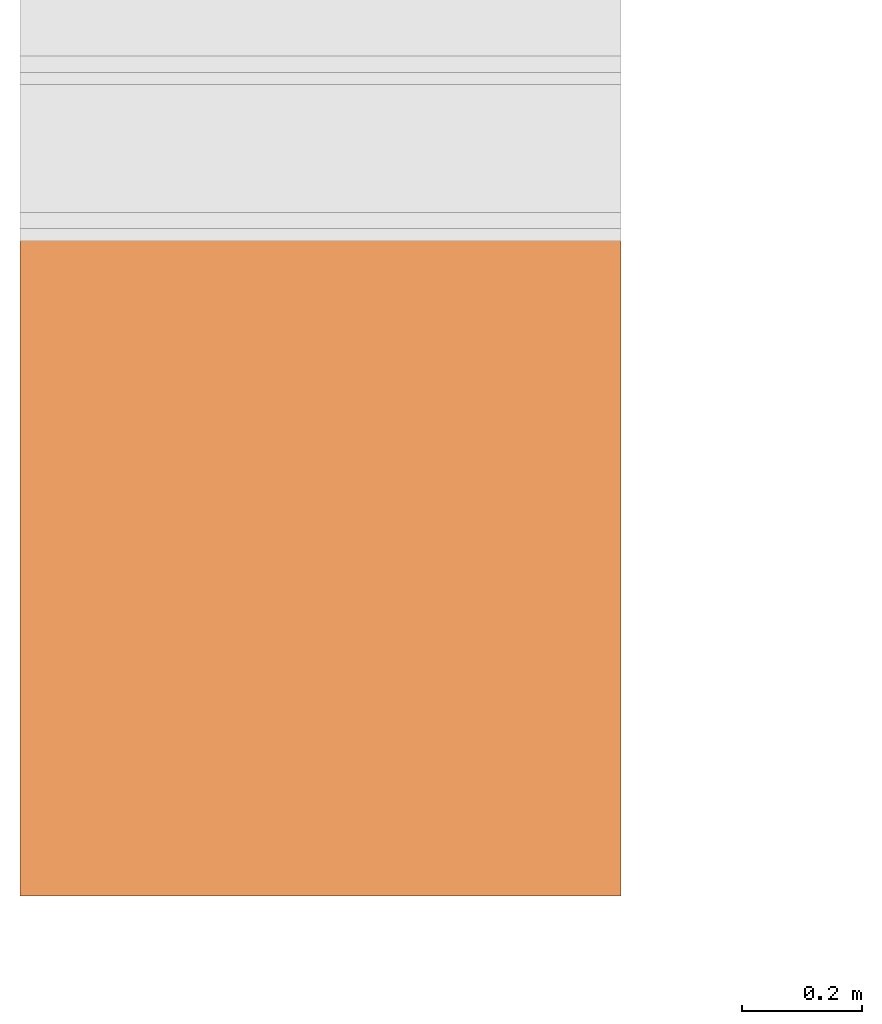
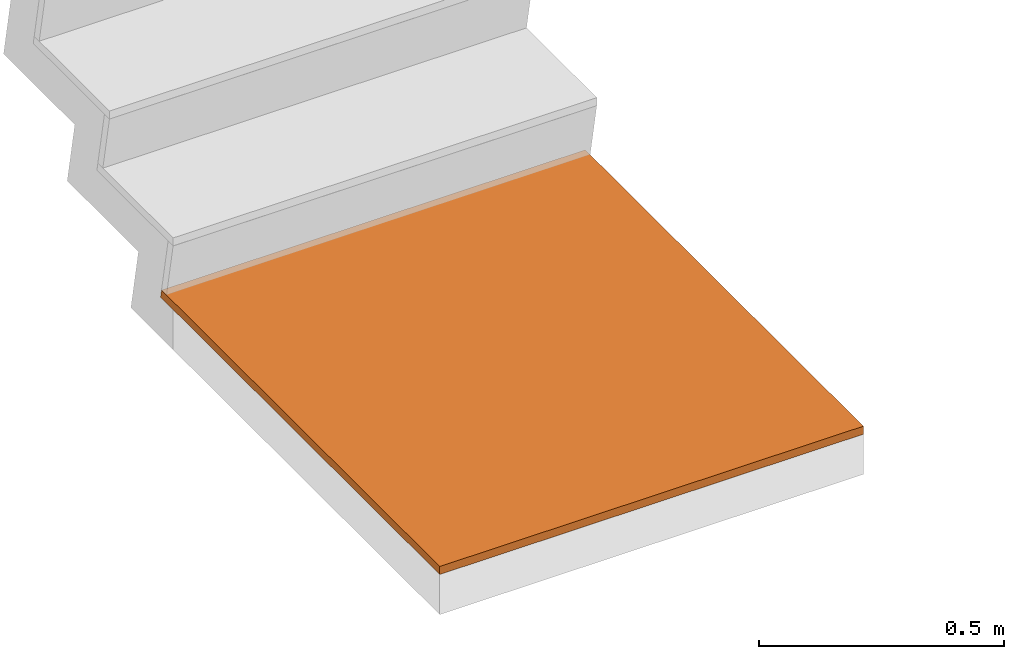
# One storey, part 4 of 4: 1 proxy, 1 element without a shape of its own.
"""IFC2X3 building model written with IfcOpenShell, lengths in millimetres."""

from ifc_helpers import new_model, entity, si_unit, converted_unit, derived_unit, money_unit, direction, frame, origin_with_axes, place, context, subcontext, project, spatial, faceted_brep, material, type_object, element, aggregate, save


model = new_model("IFC2X3")

# Units and contexts
model_context = context("Model", 3, precision=0.01, world=origin_with_axes(), true_north=direction((0.293984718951, 0.955810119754)))
body_context = subcontext(model_context, "Body", "Model", "MODEL_VIEW")
ifc_project = project(units=[si_unit("LENGTHUNIT", "METRE", prefix="MILLI"), si_unit("AREAUNIT", "SQUARE_METRE"), si_unit("VOLUMEUNIT", "CUBIC_METRE"), converted_unit("PLANEANGLEUNIT", "DEGREE", entity("IfcPlaneAngleMeasure", 0.0174532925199), si_unit("PLANEANGLEUNIT", "RADIAN"), dimensions=[0, 0, 0, 0, 0, 0, 0]), si_unit("SOLIDANGLEUNIT", "STERADIAN"), money_unit("USD"), converted_unit("TIMEUNIT", "Year", entity("IfcTimeMeasure", 31556926.0), si_unit("TIMEUNIT", "SECOND"), dimensions=[0, 0, 1, 0, 0, 0, 0]), si_unit("MASSUNIT", "GRAM", prefix="KILO"), si_unit("THERMODYNAMICTEMPERATUREUNIT", "DEGREE_CELSIUS"), si_unit("LUMINOUSINTENSITYUNIT", "LUMEN"), si_unit("ENERGYUNIT", "JOULE", prefix="MEGA"), derived_unit("THERMALCONDUCTANCEUNIT", [(si_unit("POWERUNIT", "WATT"), 1), (si_unit("LENGTHUNIT", "METRE"), -1), (si_unit("THERMODYNAMICTEMPERATUREUNIT", "KELVIN"), -1)]), derived_unit("SPECIFICHEATCAPACITYUNIT", [(si_unit("ENERGYUNIT", "JOULE"), 1), (si_unit("MASSUNIT", "GRAM", prefix="KILO"), -1), (si_unit("THERMODYNAMICTEMPERATUREUNIT", "KELVIN"), -1)]), derived_unit("MASSDENSITYUNIT", [(si_unit("MASSUNIT", "GRAM", prefix="KILO"), 1), (si_unit("VOLUMEUNIT", "CUBIC_METRE"), -1)])], contexts=[model_context])

# Site, building, storey
site_placement = place(None, origin_with_axes())
site = spatial("IfcSite", under=ifc_project, at=site_placement, Name="Local", CompositionType="ELEMENT")
building_placement = place(site_placement, origin_with_axes())
building = spatial("IfcBuilding", under=site, at=building_placement, Name="Construção", CompositionType="ELEMENT")
storey_placement = place(building_placement, frame((0.0, 0.0, 1300.0), z_axis=(0.0, 0.0, 1.0), x_axis=(1.0, 0.0, 0.0)))
storey = spatial("IfcBuildingStorey", under=building, at=storey_placement, Name="Pavimento Intermediário", CompositionType="ELEMENT", Elevation=1300.0)

# Stair, proxy
stair_placement = place(storey_placement, frame((13699.6450727, 3490.63219788, 210.0), z_axis=(0.0, 0.0, 1.0), x_axis=(1.0, 0.0, 0.0)))
stair = element("IfcStair", 1, at=stair_placement, inside=storey, Name="Escada", ShapeType="NOTDEFINED")
ifc_material = material(Name="Concreto - Contra Piso")
building_element_proxy_type = type_object("IfcBuildingElementProxyType", Name="IfcBuildingElementProxy", PredefinedType="NOTDEFINED")
proxy_placement = place(stair_placement, frame((-500.0, 0.0, 0.0), z_axis=(0.0, 0.0, 1.0), x_axis=(1.0, 0.0, 0.0)))
proxy = element("IfcBuildingElementProxy", 2, at=proxy_placement, type_object=building_element_proxy_type, material=ifc_material, Name="TREAD-011", context=body_context, shape_type="Brep", body=[
    faceted_brep([(-500.0, 1141.25920524, -20.0), (0.0, 1141.25920524, -20.0), (500.0, 1141.25920524, -20.0), (500.0, 1090.0, -20.0), (500.0, 0.0, -20.0), (-500.0, 0.0, -20.0), (-500.0, 1090.0, -20.0), (-500.0, 1137.37159906, 0.0), (0.0, 1137.37159906, 0.0), (500.0, 1137.37159906, 0.0), (500.0, 1090.0, 0.0), (500.0, 0.0, 0.0), (-500.0, 0.0, 0.0), (-500.0, 1090.0, 0.0)], [[[0, 1, 2, 3, 4, 5, 6]], [[1, 0, 7, 8, 9, 2]], [[9, 10, 3, 2]], [[10, 11, 4, 3]], [[11, 12, 5, 4]], [[12, 13, 6, 5]], [[7, 0, 6, 13]], [[8, 7, 13, 12, 11, 10, 9]]]),
])
aggregate(stair, [proxy])

save(model, "model.ifc")
